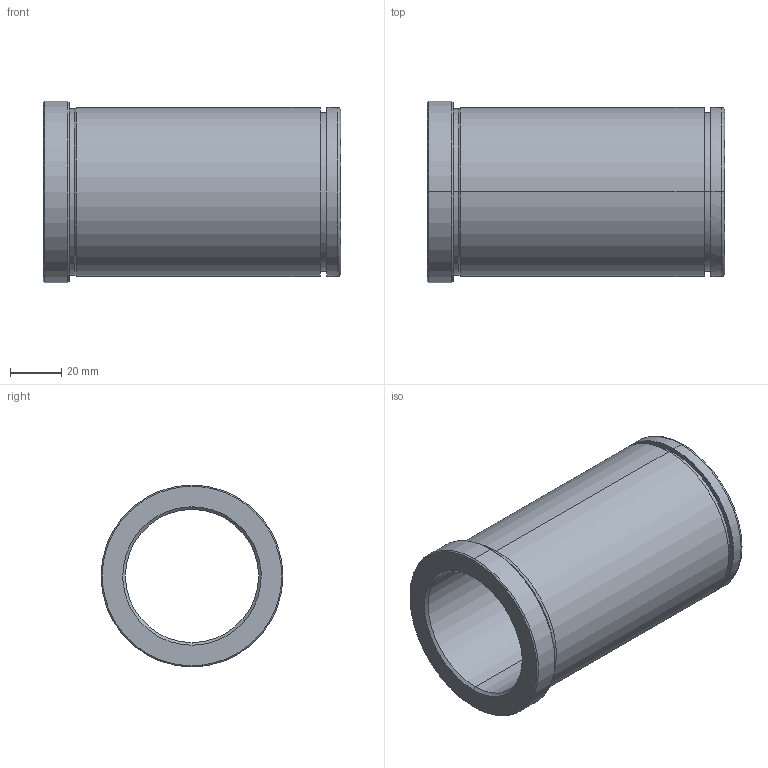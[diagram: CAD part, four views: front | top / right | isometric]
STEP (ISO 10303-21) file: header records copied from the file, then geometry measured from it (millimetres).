
FILE_DESCRIPTION(('CATIA V5 STEP Exchange'),'2;1');
FILE_NAME('C:\Users\Utente\Desktop\IO LAVORO\3D X SITO CF\X SITO\PLASTICA\553\553-52X116.stp','2021-06-08T18:02:05+00:00',('none'),('none'),'CATIA Version 5 Release 20 GA (IN-10)','CATIA V5 STEP AP203','none');
FILE_SCHEMA(('CONFIG_CONTROL_DESIGN'));
Length unit declared in the file: millimetre
Products named in the file (1): 553-52X116
Bounding box: 116 x 71 x 71 mm (x, y, z)
Volume: 154145.8 mm3; surface area: 47218.3 mm2
Topology: 1 solids, 1 shells, 29 faces, 92 edges, 68 vertices
Faces by surface type: cylinder 12, cone 8, plane 5, torus 4
Entity records: 1228 total; most frequent: CARTESIAN_POINT 374, ORIENTED_EDGE 184, DIRECTION 136, EDGE_CURVE 92, AXIS2_PLACEMENT_3D 88, VERTEX_POINT 68, CIRCLE 58, EDGE_LOOP 34
